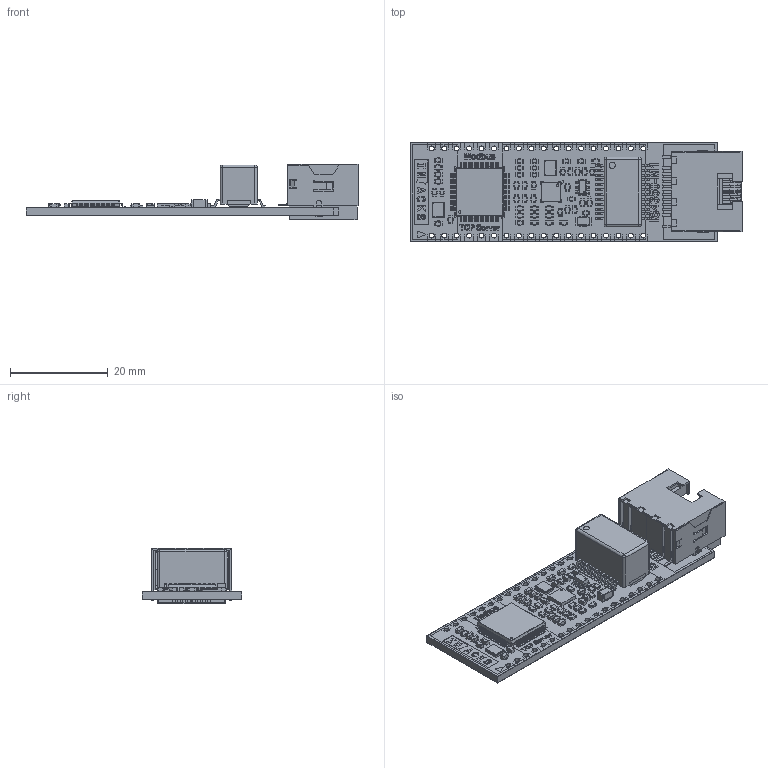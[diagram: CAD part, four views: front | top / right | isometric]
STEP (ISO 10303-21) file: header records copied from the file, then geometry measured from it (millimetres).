
FILE_DESCRIPTION(('KiCad electronic assembly'),'2;1');
FILE_NAME('IS4350-M1.step','2026-09-15T08:22:36',('Pcbnew'),('Kicad'), 'Open CASCADE STEP processor 7.9','KiCad to STEP converter','Unknown' );
FILE_SCHEMA(('AUTOMOTIVE_DESIGN { 1 0 10303 214 1 1 1 1 }'));
Length unit declared in the file: millimetre
Products named in the file (43): IS4350-M1 1; C_0603_1608Metric; Transformer_Ethernet_HALO_TG111-MSC13; R_0603_1608Metric; L_0603_1608Metric; LQFP-64_10x10mm_P0.5mm; Crystal_SMD_3225-4Pin_3.2x2.5mm; C7421394; root; rj45_smt_v2.step; SHIELD_Shell; HOUSING_Body; CT_P8; CT_P7; CT_P6; CT_P5; CT_P4; CT_P3; CT_P2; LEDPIN_12+; LEDPIN_11-; LEDPIN_10+; LEDPIN_9-; LED_YELLOW_LEFT; LED_GREEN_RIGHT; QFN-20-1EP_4x4mm_P0.5mm_EP2.5x2.5mm; QFN-20-1EP_4x4mm_Pitch0.5mm; C_1206_3216Metric; SOT-23-6; ISBA4C1_silkscreen; ISBA4C1_soldermask; ISBA4C1_PCB_1; ISBA4C1_PCB_2
Assembly tree (86 placements, depth 5):
  IS4350-M1 1
    C_0603_1608Metric  x24
      C_0603_1608Metric
    Transformer_Ethernet_HALO_TG111-MSC13
      Transformer_Ethernet_HALO_TG111-MSC13
    R_0603_1608Metric  x21
      R_0603_1608Metric
    L_0603_1608Metric
      L_0603_1608Metric
    LQFP-64_10x10mm_P0.5mm
      LQFP-64_10x10mm_P0.5mm
    Crystal_SMD_3225-4Pin_3.2x2.5mm  x2
      Crystal_SMD_3225-4Pin_3.2x2.5mm
    C7421394
      root
        rj45_smt_v2.step
          SHIELD_Shell
          HOUSING_Body
          CT_P8
          CT_P7
          CT_P6
          CT_P5
          CT_P4
          CT_P3
          CT_P2
          LEDPIN_12+
          LEDPIN_11-
          LEDPIN_10+
          LEDPIN_9-
          LED_YELLOW_LEFT
          LED_GREEN_RIGHT
    QFN-20-1EP_4x4mm_P0.5mm_EP2.5x2.5mm
      QFN-20-1EP_4x4mm_Pitch0.5mm
    C_1206_3216Metric
      C_1206_3216Metric
    SOT-23-6
      SOT-23-6
    ISBA4C1_silkscreen
    ISBA4C1_silkscreen
    ISBA4C1_soldermask
    ISBA4C1_soldermask
    ISBA4C1_PCB_1
    ISBA4C1_PCB_2
Bounding box: 67.76 x 20.32 x 11.3 mm (x, y, z)
Volume: 4064.3 mm3; surface area: 10968.7 mm2
Topology: 86 solids, 287 shells, 3704 faces, 14657 edges, 11385 vertices
Faces by surface type: plane 2781, cylinder 879, bspline 40, sphere 4
Full cylindrical faces by diameter (mm): 0.2 x9, 0.5 x1, 1 x36, 1.282 x1
Entity records: 134462 total; most frequent: CARTESIAN_POINT 23941, DIRECTION 18338, ORIENTED_EDGE 17879, EDGE_CURVE 11565, LINE 9766, VECTOR 9766, VERTEX_POINT 9353, AXIS2_PLACEMENT_3D 4286
